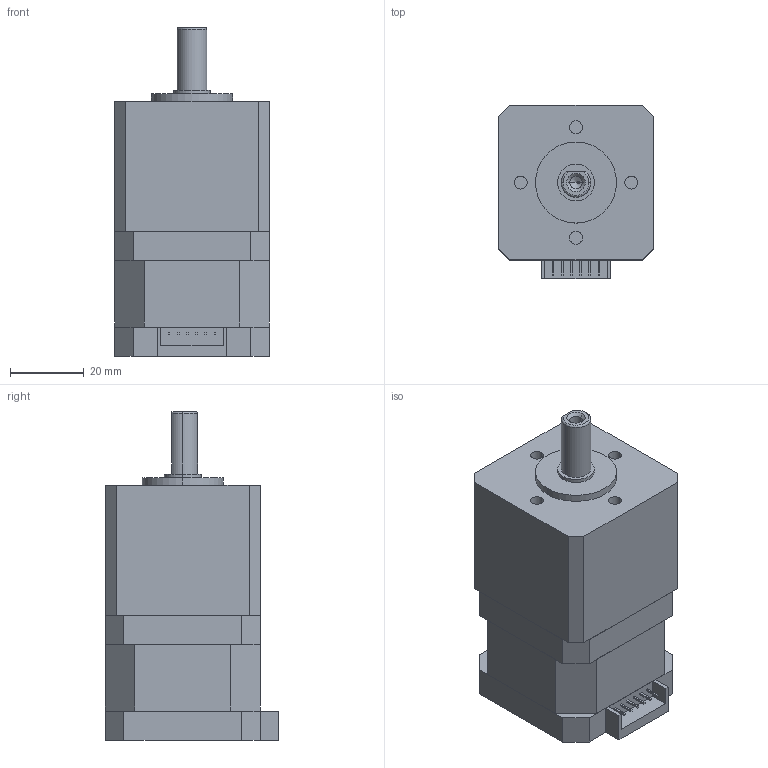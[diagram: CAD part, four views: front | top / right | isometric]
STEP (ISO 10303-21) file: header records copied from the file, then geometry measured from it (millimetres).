
FILE_DESCRIPTION (( 'STEP AP203' ), '1' );
FILE_NAME ('42PG050-D14-0434.STEP', '2019-10-12T08:23:31', ( 'China' ), ( 'Home' ), 'SwSTEP 2.0', 'SolidWorks 2016', '' );
FILE_SCHEMA (( 'CONFIG_CONTROL_DESIGN' ));
Length unit declared in the file: millimetre
Products named in the file (1): 42PG050-D14-0434
Bounding box: 42 x 47 x 89.3 mm (x, y, z)
Volume: 120229.9 mm3; surface area: 25731.6 mm2
Topology: 4 solids, 4 shells, 118 faces, 277 edges, 179 vertices
Faces by surface type: plane 86, cylinder 17, cone 12, torus 3
Entity records: 3515 total; most frequent: CARTESIAN_POINT 706, DIRECTION 554, ORIENTED_EDGE 550, EDGE_CURVE 275, LINE 224, VECTOR 224, VERTEX_POINT 179, AXIS2_PLACEMENT_3D 165
